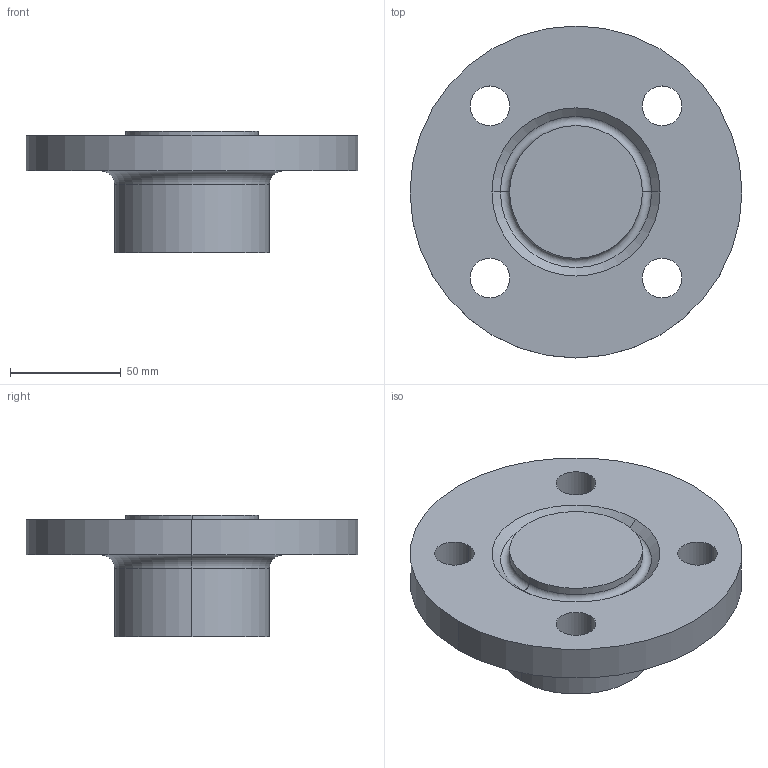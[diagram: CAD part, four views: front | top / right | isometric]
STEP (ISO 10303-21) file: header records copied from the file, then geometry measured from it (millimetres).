
FILE_DESCRIPTION (( 'STEP AP214' ), '1' );
FILE_NAME ('PN40 DN40 Type 21(i) - Type H Face.STEP', '2018-12-30T01:30:14', ( '' ), ( '' ), 'SwSTEP 2.0', 'SolidWorks 2019', '' );
FILE_SCHEMA (( 'AUTOMOTIVE_DESIGN' ));
Length unit declared in the file: millimetre
Products named in the file (1): PN40 DN40 Type 21(i) - Type H Face
Bounding box: 150 x 150 x 55 mm (x, y, z)
Volume: 411801.7 mm3; surface area: 53304.6 mm2
Topology: 1 solids, 1 shells, 24 faces, 54 edges, 34 vertices
Faces by surface type: cylinder 14, torus 4, plane 4, cone 2
Entity records: 738 total; most frequent: DIRECTION 142, CARTESIAN_POINT 113, ORIENTED_EDGE 108, AXIS2_PLACEMENT_3D 63, EDGE_CURVE 54, CIRCLE 38, EDGE_LOOP 34, VERTEX_POINT 34
